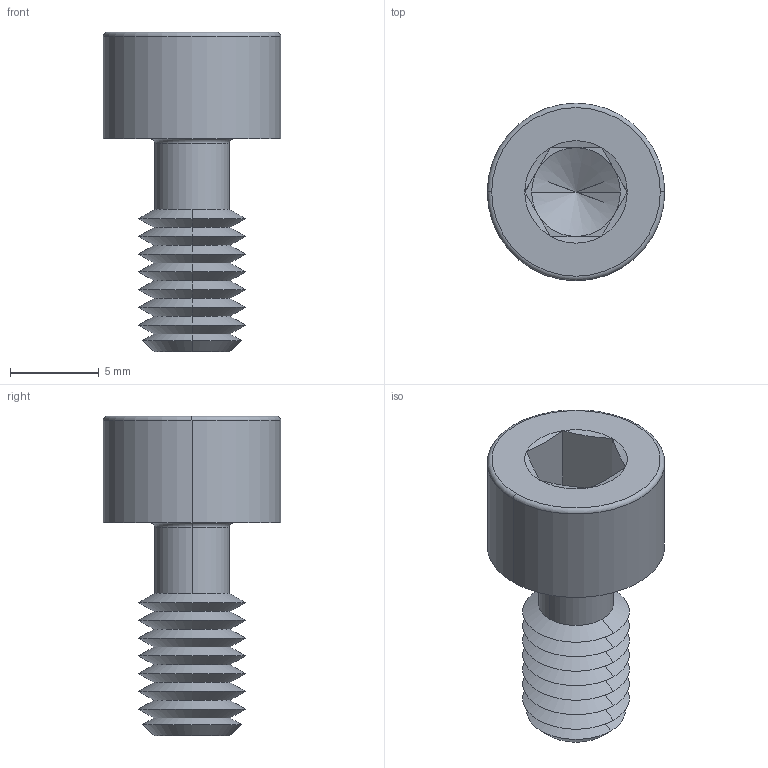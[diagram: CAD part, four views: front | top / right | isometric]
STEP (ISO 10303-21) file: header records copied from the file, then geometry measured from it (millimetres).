
FILE_DESCRIPTION (( 'STEP AP203' ), '1' );
FILE_NAME ('P0154.060-012-BL.step', '2024-06-17T11:28:15', ( '' ), ( '' ), 'SwSTEP 2.0', 'SolidWorks 2019', '' );
FILE_SCHEMA (( 'CONFIG_CONTROL_DESIGN' ));
Length unit declared in the file: millimetre
Products named in the file (1): P0154.060-012-BL
Bounding box: 10 x 10 x 18 mm (x, y, z)
Volume: 573.9 mm3; surface area: 733.9 mm2
Topology: 1 solids, 1 shells, 63 faces, 128 edges, 67 vertices
Faces by surface type: cone 40, plane 15, torus 4, cylinder 4
Entity records: 1687 total; most frequent: DIRECTION 312, CARTESIAN_POINT 283, ORIENTED_EDGE 252, AXIS2_PLACEMENT_3D 128, EDGE_CURVE 126, VERTEX_POINT 67, EDGE_LOOP 65, CIRCLE 64
